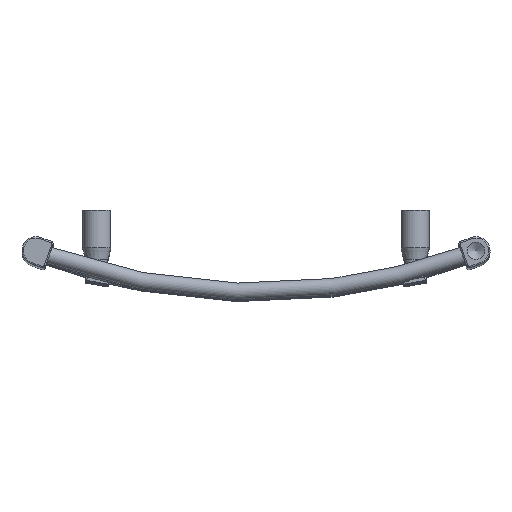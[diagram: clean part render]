
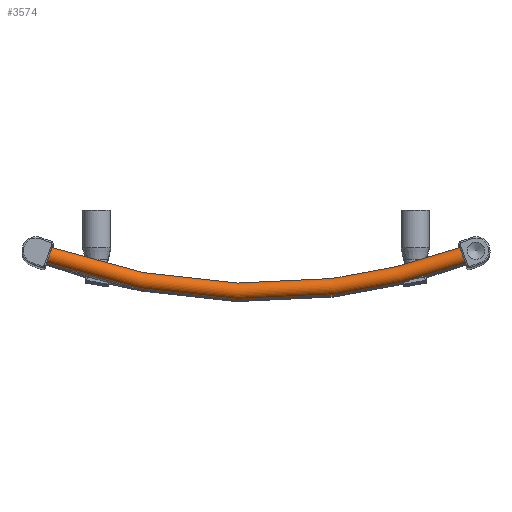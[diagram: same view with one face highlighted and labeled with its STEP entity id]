
A CAD part, top view. The second image highlights one B-rep face of the part: STEP entity #3574.
In plain terms, the highlighted toroidal (fillet/blend) face has major radius 650 mm and minor radius 9 mm.
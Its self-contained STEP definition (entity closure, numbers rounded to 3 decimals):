
#3547=CARTESIAN_POINT('',(0.0,650.0,1086.0));
#3548=DIRECTION('',(0.0,0.0,1.0));
#3549=DIRECTION('',(1.0,0.0,0.0));
#3550=AXIS2_PLACEMENT_3D('',#3547,#3548,#3549);
#3551=TOROIDAL_SURFACE('',#3550,650.,9.0);
#3552=CARTESIAN_POINT('',(217.834,47.149,1086.0));
#3553=VERTEX_POINT('',#3552);
#3554=CARTESIAN_POINT('',(220.893,38.685,1086.0));
#3555=DIRECTION('',(0.94,0.34,0.));
#3556=DIRECTION('',(0.34,-0.94,0.0));
#3557=AXIS2_PLACEMENT_3D('',#3554,#3555,#3556);
#3558=CIRCLE('',#3557,9.0);
#3559=EDGE_CURVE('',#3553,#3553,#3558,.T.);
#3560=ORIENTED_EDGE('',*,*,#3559,.F.);
#3561=EDGE_LOOP('',(#3560));
#3562=FACE_OUTER_BOUND('',#3561,.T.);
#3563=CARTESIAN_POINT('',(-217.834,47.149,1086.0));
#3564=VERTEX_POINT('',#3563);
#3565=CARTESIAN_POINT('',(-220.893,38.685,1086.0));
#3566=DIRECTION('',(-0.94,0.34,0.));
#3567=DIRECTION('',(-0.34,-0.94,0.0));
#3568=AXIS2_PLACEMENT_3D('',#3565,#3566,#3567);
#3569=CIRCLE('',#3568,9.0);
#3570=EDGE_CURVE('',#3564,#3564,#3569,.T.);
#3571=ORIENTED_EDGE('',*,*,#3570,.F.);
#3572=EDGE_LOOP('',(#3571));
#3573=FACE_BOUND('',#3572,.T.);
#3574=ADVANCED_FACE('',(#3562,#3573),#3551,.T.);
